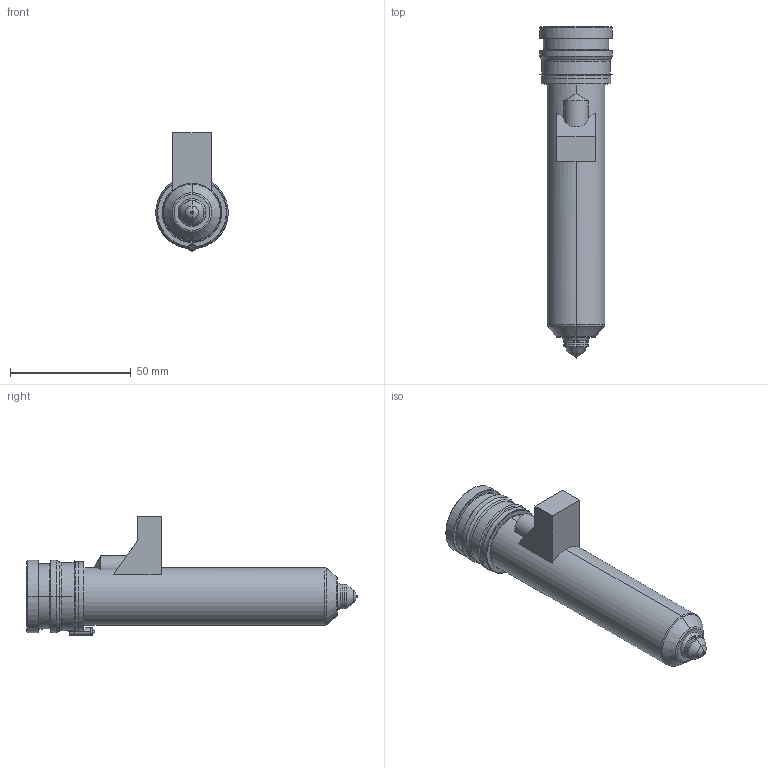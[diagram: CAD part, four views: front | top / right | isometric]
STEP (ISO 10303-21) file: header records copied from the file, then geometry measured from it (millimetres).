
FILE_DESCRIPTION((''),'2;1');
FILE_NAME('MPN-10-29-VX10-116-M','2026-02-05T12:57:00',('UPTIO'),('Thermoplay S.p.A.'),'CREO PARAMETRIC BY PTC INC, 2023494','CREO PARAMETRIC BY PTC INC, 2023494','');
FILE_SCHEMA(('CONFIG_CONTROL_DESIGN','SHAPE_APPEARANCE_LAYERS_GROUPS'));
Length unit declared in the file: millimetre
Products named in the file (1): MPN-10-29-VX10-116-M
Bounding box: 30 x 137.5 x 49 mm (x, y, z)
Volume: 43021.1 mm3; surface area: 44341.9 mm2
Topology: 3 solids, 5 shells, 547 faces, 1387 edges, 846 vertices
Faces by surface type: cylinder 179, plane 147, torus 71, bspline 70, cone 68, sphere 8, extrusion 4
Entity records: 26461 total; most frequent: CARTESIAN_POINT 10496, ORIENTED_EDGE 2760, DIRECTION 2638, EDGE_CURVE 1380, AXIS2_PLACEMENT_3D 1050, VERTEX_POINT 846, EDGE_LOOP 576, CIRCLE 576
